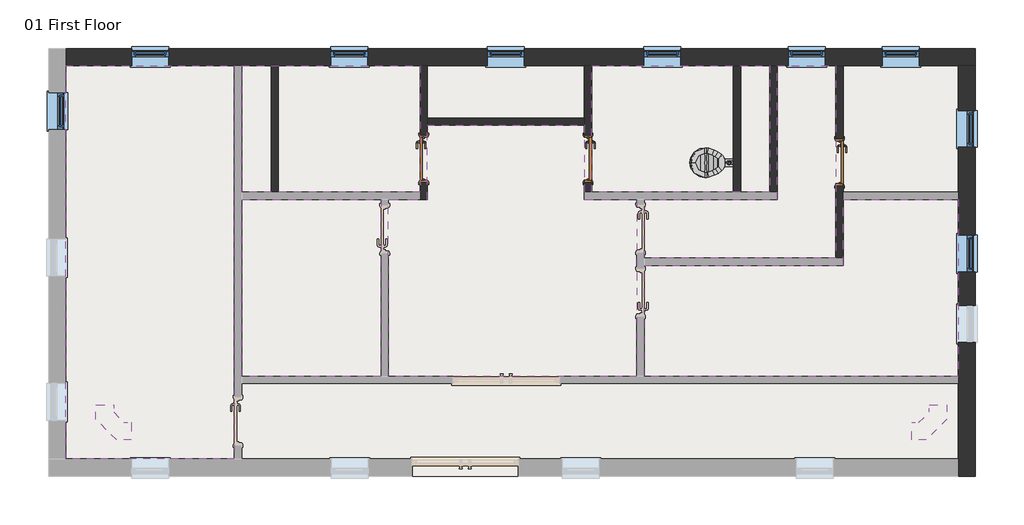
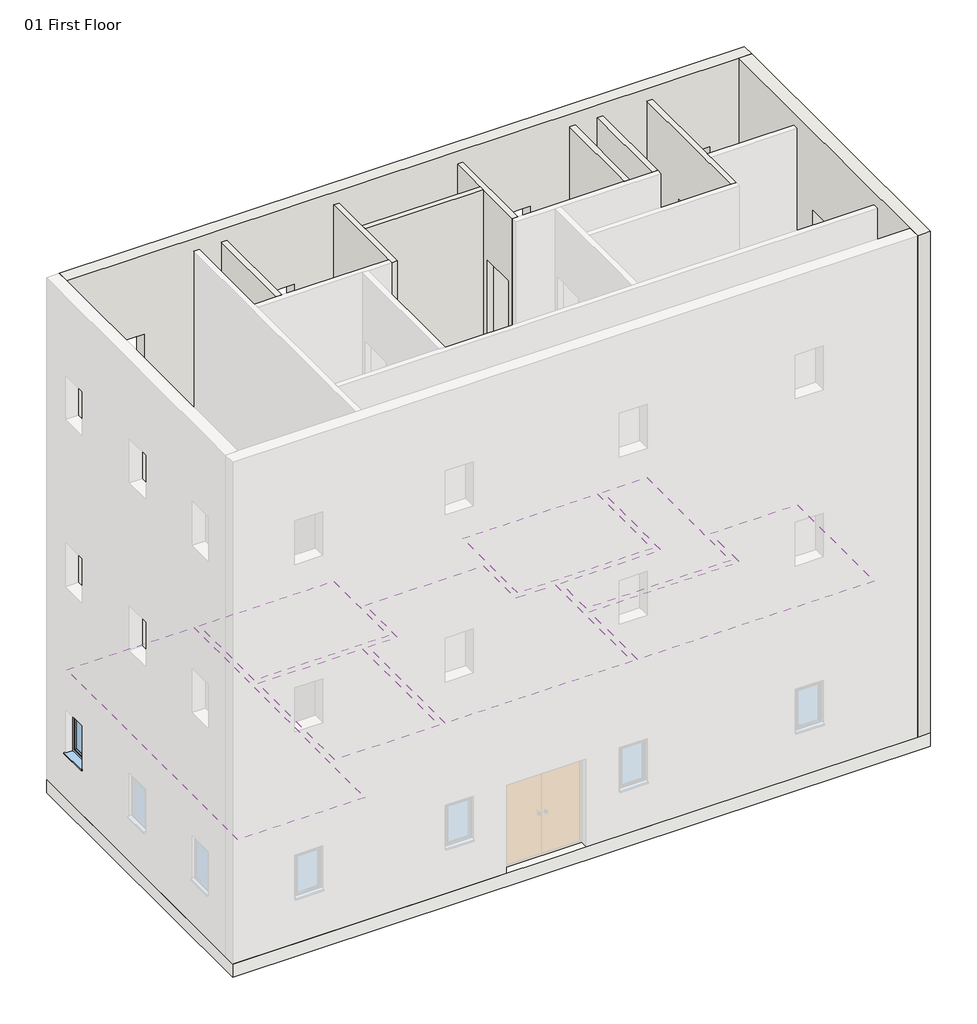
# One storey, part 2 of 2: 9 walls, 9 windows, 7 coverings, 3 doors, 2 cable carrier fittings, 1 flow terminal, 1 slab.
"""IFC4 building model written with IfcOpenShell, lengths in millimetres."""

from ifc_helpers import new_model, si_unit, frame, origin, origin_with_axes, place, context, project, spatial, polyline, outline, extrude, faceted_brep, transform, mapped, element, save
from components import cable_tray_horizontal_bend_standard_e2de60b4, intsgl_1_810_x_2110mm_5ef26f82, intsgl_1_810_x_2110mm_60c2a13c, m_water_closet_flush_valve_wall_mounted_private_6_1_lpf_4ab4cbdd, sgl_plain_630_x_1050mm_deep_554a1539

model = new_model("IFC4")

# Units and contexts
model_context = context("Model", 3, world=origin())
ifc_project = project(units=[si_unit("LENGTHUNIT", "METRE", prefix="MILLI")], contexts=[model_context])

# Site, building, storey
site = spatial("IfcSite", under=ifc_project)
building = spatial("IfcBuilding", under=site)
storey = spatial("IfcBuildingStorey", under=building, Name="01 First Floor", Elevation=0.0)

# Cable carrier fittings
placement = place(None, origin())
cable_tray_horizontal_bend_standard_shape = cable_tray_horizontal_bend_standard_e2de60b4(model_context)
element("IfcCableCarrierFitting", 1, ObjectType="Cable Tray Horizontal Bend : Standard", at=placement, inside=storey, context=model_context, shape_type="MappedRepresentation", body=[
    mapped(cable_tray_horizontal_bend_standard_shape, transform((8556.847993, -4345.0291205, 3000.0), x_axis=(1.0, 0.0, 0.0), y_axis=(0.0, 1.0, 0.0), z_axis=(0.0, 0.0, 1.0))),
])
element("IfcCableCarrierFitting", 2, ObjectType="Cable Tray Horizontal Bend : Standard", at=placement, inside=storey, context=model_context, shape_type="MappedRepresentation", body=[
    mapped(cable_tray_horizontal_bend_standard_shape, transform((-5643.152007, -4345.0291205, 3000.0), x_axis=(0.0, -1.0, 0.0), y_axis=(1.0, 0.0, 0.0), z_axis=(0.0, 0.0, 1.0))),
])

# Coverings
element("IfcCovering", 3, ObjectType="600 x 600mm grid 2", at=placement, inside=storey, context=model_context, shape_type="SweptSolid", body=[
    extrude(outline(polyline([(-3433.0198612, 1889.6075821), (-3433.0198612, -4820.3924179), (-6308.0198612, -4820.3924179), (-6308.0198612, 1889.6075821), (-3433.0198612, 1889.6075821)])), frame((0.0, 0.0, 2700.0), z_axis=(0.0, 0.0, 1.0), x_axis=(1.0, 0.0, 0.0)), (0.0, 0.0, 1.0), 52.0),
])
element("IfcCovering", 4, ObjectType="600 x 600mm grid 2", at=placement, inside=storey, context=model_context, shape_type="SweptSolid", body=[
    extrude(outline(polyline([(-3308.0198612, 1889.6075821), (-270.5198612, 1889.6075821), (-270.5198612, -265.3924179), (-3308.0198612, -265.3924179), (-3308.0198612, 1889.6075821)])), frame((0.0, 0.0, 2700.0), z_axis=(0.0, 0.0, 1.0), x_axis=(1.0, 0.0, 0.0)), (0.0, 0.0, 1.0), 52.0),
])
element("IfcCovering", 5, ObjectType="600 x 600mm grid 2", at=placement, inside=storey, context=model_context, shape_type="SweptSolid", body=[
    extrude(outline(polyline([(-3308.0198612, -390.3924179), (-933.0198612, -390.3924179), (-933.0198612, -3407.8924179), (-3308.0198612, -3407.8924179), (-3308.0198612, -390.3924179)])), frame((0.0, 0.0, 2700.0), z_axis=(0.0, 0.0, 1.0), x_axis=(1.0, 0.0, 0.0)), (0.0, 0.0, 1.0), 52.0),
])
element("IfcCovering", 6, ObjectType="600 x 600mm grid 2", at=placement, inside=storey, context=model_context, shape_type="SweptSolid", body=[
    extrude(outline(polyline([(-808.0198612, -390.3924179), (-145.5198612, -390.3924179), (-145.5198612, 872.1075821), (2529.4801388, 872.1075821), (2529.4801388, -390.3924179), (3426.9801388, -390.3924179), (3426.9801388, -3407.8924179), (-808.0198612, -3407.8924179), (-808.0198612, -390.3924179)])), frame((0.0, 0.0, 2700.0), z_axis=(0.0, 0.0, 1.0), x_axis=(1.0, 0.0, 0.0)), (0.0, 0.0, 1.0), 52.0),
])
element("IfcCovering", 7, ObjectType="600 x 600mm grid 2", at=placement, inside=storey, context=model_context, shape_type="SweptSolid", body=[
    extrude(outline(polyline([(2654.4801388, 1889.6075821), (5691.9801388, 1889.6075821), (5691.9801388, -265.3924179), (2654.4801388, -265.3924179), (2654.4801388, 1889.6075821)])), frame((0.0, 0.0, 2700.0), z_axis=(0.0, 0.0, 1.0), x_axis=(1.0, 0.0, 0.0)), (0.0, 0.0, 1.0), 52.0),
])
element("IfcCovering", 8, ObjectType="600 x 600mm grid 2", at=placement, inside=storey, context=model_context, shape_type="SweptSolid", body=[
    extrude(outline(polyline([(5816.9801388, 1889.6075821), (6816.9801388, 1889.6075821), (6816.9801388, -1390.3924179), (3551.9801388, -1390.3924179), (3551.9801388, -390.3924179), (5816.9801388, -390.3924179), (5816.9801388, 1889.6075821)])), frame((0.0, 0.0, 2700.0), z_axis=(0.0, 0.0, 1.0), x_axis=(1.0, 0.0, 0.0)), (0.0, 0.0, 1.0), 52.0),
])
element("IfcCovering", 9, ObjectType="600 x 600mm grid 2", at=placement, inside=storey, context=model_context, shape_type="SweptSolid", body=[
    extrude(outline(polyline([(8901.9801388, -390.3924179), (8901.9801388, -3407.8924179), (3551.9801388, -3407.8924179), (3551.9801388, -1515.3924179), (6941.9801388, -1515.3924179), (6941.9801388, -390.3924179), (8901.9801388, -390.3924179)])), frame((0.0, 0.0, 2700.0), z_axis=(0.0, 0.0, 1.0), x_axis=(1.0, 0.0, 0.0)), (0.0, 0.0, 1.0), 52.0),
])

# Doors
intsgl_1_810_x_2110mm_shape = intsgl_1_810_x_2110mm_5ef26f82(model_context)
element("IfcDoor", 10, ObjectType="IntSgl (1) : 810 x 2110mm", at=placement, inside=storey, context=model_context, shape_type="MappedRepresentation", body=[
    mapped(intsgl_1_810_x_2110mm_shape, transform((-208.0198612, 303.3575821, 0.0), x_axis=(0.0, -1.0, 0.0), y_axis=(1.0, 0.0, 0.0), z_axis=(0.0, 0.0, 1.0))),
])
intsgl_1_810_x_2110mm_2_shape = intsgl_1_810_x_2110mm_60c2a13c(model_context)
element("IfcDoor", 11, ObjectType="IntSgl (1) : 810 x 2110mm", at=placement, inside=storey, context=model_context, shape_type="MappedRepresentation", body=[
    mapped(intsgl_1_810_x_2110mm_2_shape, transform((2591.9801388, 303.3575821, 0.0), x_axis=(0.0, -1.0, 0.0), y_axis=(1.0, 0.0, 0.0), z_axis=(0.0, 0.0, 1.0))),
])
element("IfcDoor", 12, ObjectType="IntSgl (1) : 810 x 2110mm", at=placement, inside=storey, context=model_context, shape_type="MappedRepresentation", body=[
    mapped(intsgl_1_810_x_2110mm_2_shape, transform((6879.4801388, 239.6075821, 0.0), x_axis=(0.0, -1.0, 0.0), y_axis=(1.0, 0.0, 0.0), z_axis=(0.0, 0.0, 1.0))),
])

# Flow terminal
m_water_closet_flush_valve_wall_mounted_private_6_1_lpf_shape = m_water_closet_flush_valve_wall_mounted_private_6_1_lpf_4ab4cbdd(model_context)
element("IfcFlowTerminal", 13, ObjectType="M_Water Closet - Flush Valve - Wall Mounted : Private - 6.1 Lpf", at=placement, inside=storey, context=model_context, shape_type="MappedRepresentation", body=[
    mapped(m_water_closet_flush_valve_wall_mounted_private_6_1_lpf_shape, transform((5066.9801388, 234.0015903, 424.0175826), x_axis=(0.0, -1.0, 0.0), y_axis=(0.0, 0.0, 1.0), z_axis=(-1.0, 0.0, 0.0))),
])

# Slab
element("IfcSlab", 14, ObjectType="Beam and Block 225mm Susp Ground", at=placement, inside=storey, context=model_context, shape_type="SweptSolid", body=[
    extrude(outline(polyline([(9191.9801388, 2179.6075821), (9191.9801388, -5110.3924179), (-6598.0198612, -5110.3924179), (-6598.0198612, 2179.6075821), (9191.9801388, 2179.6075821)])), frame((0.0, 0.0, -320.0), z_axis=(0.0, 0.0, 1.0), x_axis=(1.0, 0.0, 0.0)), (0.0, 0.0, 1.0), 320.0),
])

# Walls
element("IfcWall", 15, ObjectType="Cav - 102 75i 100 p - Lwt", at=placement, inside=storey, context=model_context, shape_type="Brep", body=[
    faceted_brep([(9191.9801388, 2179.6075821, 0.0), (-6308.0198612, 2179.6075821, 0.0), (-6308.0198612, 2179.6075821, 12000.0), (9191.9801388, 2179.6075821, 12000.0), (-5185.5198612, 2179.6075821, 2110.0), (-5185.5198612, 2179.6075821, 1060.0), (-4555.5198612, 2179.6075821, 1060.0), (-4555.5198612, 2179.6075821, 2110.0), (-1791.7698612, 2179.6075821, 2110.0), (-1791.7698612, 2179.6075821, 1060.0), (-1161.7698612, 2179.6075821, 1060.0), (-1161.7698612, 2179.6075821, 2110.0), (876.9801388, 2179.6075821, 2110.0), (876.9801388, 2179.6075821, 1060.0), (1506.9801388, 2179.6075821, 1060.0), (1506.9801388, 2179.6075821, 2110.0), (3545.7301388, 2179.6075821, 2110.0), (3545.7301388, 2179.6075821, 1060.0), (4175.7301388, 2179.6075821, 1060.0), (4175.7301388, 2179.6075821, 2110.0), (6001.9801388, 2179.6075821, 2110.0), (6001.9801388, 2179.6075821, 1060.0), (6631.9801388, 2179.6075821, 1060.0), (6631.9801388, 2179.6075821, 2110.0), (7606.9801388, 2179.6075821, 2110.0), (7606.9801388, 2179.6075821, 1060.0), (8236.9801388, 2179.6075821, 1060.0), (8236.9801388, 2179.6075821, 2110.0), (7606.9801388, 2179.6075821, 6110.0), (7606.9801388, 2179.6075821, 5060.0), (8236.9801388, 2179.6075821, 5060.0), (8236.9801388, 2179.6075821, 6110.0), (6001.9801388, 2179.6075821, 6110.0), (6001.9801388, 2179.6075821, 5060.0), (6631.9801388, 2179.6075821, 5060.0), (6631.9801388, 2179.6075821, 6110.0), (3545.7301388, 2179.6075821, 6110.0), (3545.7301388, 2179.6075821, 5060.0), (4175.7301388, 2179.6075821, 5060.0), (4175.7301388, 2179.6075821, 6110.0), (876.9801388, 2179.6075821, 6110.0), (876.9801388, 2179.6075821, 5060.0), (1506.9801388, 2179.6075821, 5060.0), (1506.9801388, 2179.6075821, 6110.0), (-1791.7698612, 2179.6075821, 6110.0), (-1791.7698612, 2179.6075821, 5060.0), (-1161.7698612, 2179.6075821, 5060.0), (-1161.7698612, 2179.6075821, 6110.0), (-5185.5198612, 2179.6075821, 6110.0), (-5185.5198612, 2179.6075821, 5060.0), (-4555.5198612, 2179.6075821, 5060.0), (-4555.5198612, 2179.6075821, 6110.0), (7606.9801388, 2179.6075821, 10110.0), (7606.9801388, 2179.6075821, 9060.0), (8236.9801388, 2179.6075821, 9060.0), (8236.9801388, 2179.6075821, 10110.0), (6001.9801388, 2179.6075821, 10110.0), (6001.9801388, 2179.6075821, 9060.0), (6631.9801388, 2179.6075821, 9060.0), (6631.9801388, 2179.6075821, 10110.0), (3545.7301388, 2179.6075821, 10110.0), (3545.7301388, 2179.6075821, 9060.0), (4175.7301388, 2179.6075821, 9060.0), (4175.7301388, 2179.6075821, 10110.0), (876.9801388, 2179.6075821, 10110.0), (876.9801388, 2179.6075821, 9060.0), (1506.9801388, 2179.6075821, 9060.0), (1506.9801388, 2179.6075821, 10110.0), (-1791.7698612, 2179.6075821, 10110.0), (-1791.7698612, 2179.6075821, 9060.0), (-1161.7698612, 2179.6075821, 9060.0), (-1161.7698612, 2179.6075821, 10110.0), (-5185.5198612, 2179.6075821, 10110.0), (-5185.5198612, 2179.6075821, 9060.0), (-4555.5198612, 2179.6075821, 9060.0), (-4555.5198612, 2179.6075821, 10110.0), (9191.9801388, 1889.6075821, 0.0), (9191.9801388, 1889.6075821, 12000.0), (8901.9801388, 1889.6075821, 12000.0), (-6308.0198612, 1889.6075821, 12000.0), (-6308.0198612, 1889.6075821, 0.0), (-3433.0198612, 1889.6075821, 0.0), (-3308.0198612, 1889.6075821, 0.0), (-2808.0198612, 1889.6075821, 0.0), (-2683.0198612, 1889.6075821, 0.0), (-270.5198612, 1889.6075821, 0.0), (-145.5198612, 1889.6075821, 0.0), (2529.4801388, 1889.6075821, 0.0), (2654.4801388, 1889.6075821, 0.0), (5066.9801388, 1889.6075821, 0.0), (5191.9801388, 1889.6075821, 0.0), (5691.9801388, 1889.6075821, 0.0), (5816.9801388, 1889.6075821, 0.0), (6816.9801388, 1889.6075821, 0.0), (6941.9801388, 1889.6075821, 0.0), (8901.9801388, 1889.6075821, 0.0), (-5185.5198612, 1889.6075821, 2110.0), (-4555.5198612, 1889.6075821, 2110.0), (-4555.5198612, 1889.6075821, 1060.0), (-5185.5198612, 1889.6075821, 1060.0), (-1791.7698612, 1889.6075821, 2110.0), (-1161.7698612, 1889.6075821, 2110.0), (-1161.7698612, 1889.6075821, 1060.0), (-1791.7698612, 1889.6075821, 1060.0), (876.9801388, 1889.6075821, 2110.0), (1506.9801388, 1889.6075821, 2110.0), (1506.9801388, 1889.6075821, 1060.0), (876.9801388, 1889.6075821, 1060.0), (3545.7301388, 1889.6075821, 2110.0), (4175.7301388, 1889.6075821, 2110.0), (4175.7301388, 1889.6075821, 1060.0), (3545.7301388, 1889.6075821, 1060.0), (6001.9801388, 1889.6075821, 2110.0), (6631.9801388, 1889.6075821, 2110.0), (6631.9801388, 1889.6075821, 1060.0), (6001.9801388, 1889.6075821, 1060.0), (7606.9801388, 1889.6075821, 2110.0), (8236.9801388, 1889.6075821, 2110.0), (8236.9801388, 1889.6075821, 1060.0), (7606.9801388, 1889.6075821, 1060.0), (7606.9801388, 1889.6075821, 6110.0), (8236.9801388, 1889.6075821, 6110.0), (8236.9801388, 1889.6075821, 5060.0), (7606.9801388, 1889.6075821, 5060.0), (6001.9801388, 1889.6075821, 6110.0), (6631.9801388, 1889.6075821, 6110.0), (6631.9801388, 1889.6075821, 5060.0), (6001.9801388, 1889.6075821, 5060.0), (3545.7301388, 1889.6075821, 6110.0), (4175.7301388, 1889.6075821, 6110.0), (4175.7301388, 1889.6075821, 5060.0), (3545.7301388, 1889.6075821, 5060.0), (876.9801388, 1889.6075821, 6110.0), (1506.9801388, 1889.6075821, 6110.0), (1506.9801388, 1889.6075821, 5060.0), (876.9801388, 1889.6075821, 5060.0), (-1791.7698612, 1889.6075821, 6110.0), (-1161.7698612, 1889.6075821, 6110.0), (-1161.7698612, 1889.6075821, 5060.0), (-1791.7698612, 1889.6075821, 5060.0), (-5185.5198612, 1889.6075821, 6110.0), (-4555.5198612, 1889.6075821, 6110.0), (-4555.5198612, 1889.6075821, 5060.0), (-5185.5198612, 1889.6075821, 5060.0), (7606.9801388, 1889.6075821, 10110.0), (8236.9801388, 1889.6075821, 10110.0), (8236.9801388, 1889.6075821, 9060.0), (7606.9801388, 1889.6075821, 9060.0), (6001.9801388, 1889.6075821, 10110.0), (6631.9801388, 1889.6075821, 10110.0), (6631.9801388, 1889.6075821, 9060.0), (6001.9801388, 1889.6075821, 9060.0), (3545.7301388, 1889.6075821, 10110.0), (4175.7301388, 1889.6075821, 10110.0), (4175.7301388, 1889.6075821, 9060.0), (3545.7301388, 1889.6075821, 9060.0), (876.9801388, 1889.6075821, 10110.0), (1506.9801388, 1889.6075821, 10110.0), (1506.9801388, 1889.6075821, 9060.0), (876.9801388, 1889.6075821, 9060.0), (-1791.7698612, 1889.6075821, 10110.0), (-1161.7698612, 1889.6075821, 10110.0), (-1161.7698612, 1889.6075821, 9060.0), (-1791.7698612, 1889.6075821, 9060.0), (-5185.5198612, 1889.6075821, 10110.0), (-4555.5198612, 1889.6075821, 10110.0), (-4555.5198612, 1889.6075821, 9060.0), (-5185.5198612, 1889.6075821, 9060.0)], [[[0, 1, 2, 3], [4, 5, 6, 7], [8, 9, 10, 11], [12, 13, 14, 15], [16, 17, 18, 19], [20, 21, 22, 23], [24, 25, 26, 27], [28, 29, 30, 31], [32, 33, 34, 35], [36, 37, 38, 39], [40, 41, 42, 43], [44, 45, 46, 47], [48, 49, 50, 51], [52, 53, 54, 55], [56, 57, 58, 59], [60, 61, 62, 63], [64, 65, 66, 67], [68, 69, 70, 71], [72, 73, 74, 75]], [[76, 77, 78, 79, 80, 81, 82, 83, 84, 85, 86, 87, 88, 89, 90, 91, 92, 93, 94, 95], [96, 97, 98, 99], [100, 101, 102, 103], [104, 105, 106, 107], [108, 109, 110, 111], [112, 113, 114, 115], [116, 117, 118, 119], [120, 121, 122, 123], [124, 125, 126, 127], [128, 129, 130, 131], [132, 133, 134, 135], [136, 137, 138, 139], [140, 141, 142, 143], [144, 145, 146, 147], [148, 149, 150, 151], [152, 153, 154, 155], [156, 157, 158, 159], [160, 161, 162, 163], [164, 165, 166, 167]], [[1, 0, 76, 95, 94, 93, 92, 91, 90, 89, 88, 87, 86, 85, 84, 83, 82, 81, 80]], [[3, 2, 79, 78, 77]], [[0, 3, 77, 76]], [[2, 1, 80, 79]], [[5, 4, 96, 99]], [[6, 5, 99, 98]], [[7, 6, 98, 97]], [[4, 7, 97, 96]], [[9, 8, 100, 103]], [[10, 9, 103, 102]], [[11, 10, 102, 101]], [[8, 11, 101, 100]], [[13, 12, 104, 107]], [[14, 13, 107, 106]], [[15, 14, 106, 105]], [[12, 15, 105, 104]], [[17, 16, 108, 111]], [[18, 17, 111, 110]], [[19, 18, 110, 109]], [[16, 19, 109, 108]], [[21, 20, 112, 115]], [[22, 21, 115, 114]], [[23, 22, 114, 113]], [[20, 23, 113, 112]], [[25, 24, 116, 119]], [[26, 25, 119, 118]], [[27, 26, 118, 117]], [[24, 27, 117, 116]], [[29, 28, 120, 123]], [[30, 29, 123, 122]], [[31, 30, 122, 121]], [[28, 31, 121, 120]], [[33, 32, 124, 127]], [[34, 33, 127, 126]], [[35, 34, 126, 125]], [[32, 35, 125, 124]], [[37, 36, 128, 131]], [[38, 37, 131, 130]], [[39, 38, 130, 129]], [[36, 39, 129, 128]], [[41, 40, 132, 135]], [[42, 41, 135, 134]], [[43, 42, 134, 133]], [[40, 43, 133, 132]], [[45, 44, 136, 139]], [[46, 45, 139, 138]], [[47, 46, 138, 137]], [[44, 47, 137, 136]], [[49, 48, 140, 143]], [[50, 49, 143, 142]], [[51, 50, 142, 141]], [[48, 51, 141, 140]], [[53, 52, 144, 147]], [[54, 53, 147, 146]], [[55, 54, 146, 145]], [[52, 55, 145, 144]], [[57, 56, 148, 151]], [[58, 57, 151, 150]], [[59, 58, 150, 149]], [[56, 59, 149, 148]], [[61, 60, 152, 155]], [[62, 61, 155, 154]], [[63, 62, 154, 153]], [[60, 63, 153, 152]], [[65, 64, 156, 159]], [[66, 65, 159, 158]], [[67, 66, 158, 157]], [[64, 67, 157, 156]], [[69, 68, 160, 163]], [[70, 69, 163, 162]], [[71, 70, 162, 161]], [[68, 71, 161, 160]], [[73, 72, 164, 167]], [[74, 73, 167, 166]], [[75, 74, 166, 165]], [[72, 75, 165, 164]]]),
])
element("IfcWall", 16, ObjectType="Cav - 102 75i 100 p - Lwt", at=placement, inside=storey, context=model_context, shape_type="Brep", body=[
    faceted_brep([(9191.9801388, -5110.3924179, 0.0), (9191.9801388, 1889.6075821, 0.0), (9191.9801388, 1889.6075821, 12000.0), (9191.9801388, -5110.3924179, 12000.0), (9191.9801388, 1127.1075821, 2110.0), (9191.9801388, 1127.1075821, 1060.0), (9191.9801388, 497.1075821, 1060.0), (9191.9801388, 497.1075821, 2110.0), (9191.9801388, -999.9924179, 2110.0), (9191.9801388, -999.9924179, 1060.0), (9191.9801388, -1629.9924179, 1060.0), (9191.9801388, -1629.9924179, 2110.0), (9191.9801388, -2203.9424179, 2110.0), (9191.9801388, -2203.9424179, 1060.0), (9191.9801388, -2833.9424179, 1060.0), (9191.9801388, -2833.9424179, 2110.0), (9191.9801388, -2203.9424179, 6110.0), (9191.9801388, -2203.9424179, 5060.0), (9191.9801388, -2833.9424179, 5060.0), (9191.9801388, -2833.9424179, 6110.0), (9191.9801388, -999.9924179, 6110.0), (9191.9801388, -999.9924179, 5060.0), (9191.9801388, -1629.9924179, 5060.0), (9191.9801388, -1629.9924179, 6110.0), (9191.9801388, 1127.1075821, 6110.0), (9191.9801388, 1127.1075821, 5060.0), (9191.9801388, 497.1075821, 5060.0), (9191.9801388, 497.1075821, 6110.0), (9191.9801388, -2203.9424179, 10110.0), (9191.9801388, -2203.9424179, 9060.0), (9191.9801388, -2833.9424179, 9060.0), (9191.9801388, -2833.9424179, 10110.0), (9191.9801388, -999.9924179, 10110.0), (9191.9801388, -999.9924179, 9060.0), (9191.9801388, -1629.9924179, 9060.0), (9191.9801388, -1629.9924179, 10110.0), (9191.9801388, 1127.1075821, 10110.0), (9191.9801388, 1127.1075821, 9060.0), (9191.9801388, 497.1075821, 9060.0), (9191.9801388, 497.1075821, 10110.0), (8901.9801388, -5110.3924179, 0.0), (8901.9801388, -5110.3924179, 12000.0), (8901.9801388, -4820.3924179, 12000.0), (8901.9801388, 1889.6075821, 12000.0), (8901.9801388, 1889.6075821, 0.0), (8901.9801388, -265.3924179, 0.0), (8901.9801388, -390.3924179, 0.0), (8901.9801388, -3407.8924179, 0.0), (8901.9801388, -3532.8924179, 0.0), (8901.9801388, -4820.3924179, 0.0), (8901.9801388, 1127.1075821, 2110.0), (8901.9801388, 497.1075821, 2110.0), (8901.9801388, 497.1075821, 1060.0), (8901.9801388, 1127.1075821, 1060.0), (8901.9801388, -999.9924179, 2110.0), (8901.9801388, -1629.9924179, 2110.0), (8901.9801388, -1629.9924179, 1060.0), (8901.9801388, -999.9924179, 1060.0), (8901.9801388, -2203.9424179, 2110.0), (8901.9801388, -2833.9424179, 2110.0), (8901.9801388, -2833.9424179, 1060.0), (8901.9801388, -2203.9424179, 1060.0), (8901.9801388, -2203.9424179, 6110.0), (8901.9801388, -2833.9424179, 6110.0), (8901.9801388, -2833.9424179, 5060.0), (8901.9801388, -2203.9424179, 5060.0), (8901.9801388, -999.9924179, 6110.0), (8901.9801388, -1629.9924179, 6110.0), (8901.9801388, -1629.9924179, 5060.0), (8901.9801388, -999.9924179, 5060.0), (8901.9801388, 1127.1075821, 6110.0), (8901.9801388, 497.1075821, 6110.0), (8901.9801388, 497.1075821, 5060.0), (8901.9801388, 1127.1075821, 5060.0), (8901.9801388, -2203.9424179, 10110.0), (8901.9801388, -2833.9424179, 10110.0), (8901.9801388, -2833.9424179, 9060.0), (8901.9801388, -2203.9424179, 9060.0), (8901.9801388, -999.9924179, 10110.0), (8901.9801388, -1629.9924179, 10110.0), (8901.9801388, -1629.9924179, 9060.0), (8901.9801388, -999.9924179, 9060.0), (8901.9801388, 1127.1075821, 10110.0), (8901.9801388, 497.1075821, 10110.0), (8901.9801388, 497.1075821, 9060.0), (8901.9801388, 1127.1075821, 9060.0)], [[[0, 1, 2, 3], [4, 5, 6, 7], [8, 9, 10, 11], [12, 13, 14, 15], [16, 17, 18, 19], [20, 21, 22, 23], [24, 25, 26, 27], [28, 29, 30, 31], [32, 33, 34, 35], [36, 37, 38, 39]], [[40, 41, 42, 43, 44, 45, 46, 47, 48, 49], [50, 51, 52, 53], [54, 55, 56, 57], [58, 59, 60, 61], [62, 63, 64, 65], [66, 67, 68, 69], [70, 71, 72, 73], [74, 75, 76, 77], [78, 79, 80, 81], [82, 83, 84, 85]], [[1, 0, 40, 49, 48, 47, 46, 45, 44]], [[3, 2, 43, 42, 41]], [[0, 3, 41, 40]], [[2, 1, 44, 43]], [[5, 4, 50, 53]], [[6, 5, 53, 52]], [[7, 6, 52, 51]], [[4, 7, 51, 50]], [[9, 8, 54, 57]], [[10, 9, 57, 56]], [[11, 10, 56, 55]], [[8, 11, 55, 54]], [[13, 12, 58, 61]], [[14, 13, 61, 60]], [[15, 14, 60, 59]], [[12, 15, 59, 58]], [[17, 16, 62, 65]], [[18, 17, 65, 64]], [[19, 18, 64, 63]], [[16, 19, 63, 62]], [[21, 20, 66, 69]], [[22, 21, 69, 68]], [[23, 22, 68, 67]], [[20, 23, 67, 66]], [[25, 24, 70, 73]], [[26, 25, 73, 72]], [[27, 26, 72, 71]], [[24, 27, 71, 70]], [[29, 28, 74, 77]], [[30, 29, 77, 76]], [[31, 30, 76, 75]], [[28, 31, 75, 74]], [[33, 32, 78, 81]], [[34, 33, 81, 80]], [[35, 34, 80, 79]], [[32, 35, 79, 78]], [[37, 36, 82, 85]], [[38, 37, 85, 84]], [[39, 38, 84, 83]], [[36, 39, 83, 82]]]),
])
element("IfcWall", 17, ObjectType="Partn - p 100 p - Block", at=placement, inside=storey, context=model_context, shape_type="Brep", body=[
    faceted_brep([(-270.5198612, -390.3924179, 11700.0), (-270.5198612, -265.3924179, 11700.0), (-270.5198612, 1889.6075821, 11700.0), (-270.5198612, 1889.6075821, 0.0), (-270.5198612, 708.3575821, 0.0), (-270.5198612, 708.3575821, 2110.0), (-270.5198612, -101.6424179, 2110.0), (-270.5198612, -101.6424179, 0.0), (-270.5198612, -265.3924179, 0.0), (-270.5198612, -390.3924179, 0.0), (-270.5198612, -101.6424179, 4000.0), (-270.5198612, 708.3575821, 4000.0), (-270.5198612, 708.3575821, 6110.0), (-270.5198612, -101.6424179, 6110.0), (-270.5198612, -101.6424179, 8000.0), (-270.5198612, 708.3575821, 8000.0), (-270.5198612, 708.3575821, 10110.0), (-270.5198612, -101.6424179, 10110.0), (-145.5198612, 1889.6075821, 11700.0), (-145.5198612, 997.1075821, 11700.0), (-145.5198612, 872.1075821, 11700.0), (-145.5198612, -390.3924179, 11700.0), (-145.5198612, -390.3924179, 0.0), (-145.5198612, -101.6424179, 0.0), (-145.5198612, -101.6424179, 2110.0), (-145.5198612, 708.3575821, 2110.0), (-145.5198612, 708.3575821, 0.0), (-145.5198612, 872.1075821, 0.0), (-145.5198612, 997.1075821, 0.0), (-145.5198612, 1889.6075821, 0.0), (-145.5198612, -101.6424179, 4000.0), (-145.5198612, -101.6424179, 6110.0), (-145.5198612, 708.3575821, 6110.0), (-145.5198612, 708.3575821, 4000.0), (-145.5198612, -101.6424179, 8000.0), (-145.5198612, -101.6424179, 10110.0), (-145.5198612, 708.3575821, 10110.0), (-145.5198612, 708.3575821, 8000.0)], [[[0, 1, 2, 3, 4, 5, 6, 7, 8, 9], [10, 11, 12, 13], [14, 15, 16, 17]], [[18, 19, 20, 21, 22, 23, 24, 25, 26, 27, 28, 29], [30, 31, 32, 33], [34, 35, 36, 37]], [[3, 29, 28, 27, 26, 4]], [[22, 9, 8, 7, 23]], [[2, 1, 0, 21, 20, 19, 18]], [[3, 2, 18, 29]], [[0, 9, 22, 21]], [[6, 24, 23, 7]], [[24, 6, 5, 25]], [[25, 5, 4, 26]], [[31, 30, 10, 13]], [[32, 31, 13, 12]], [[33, 32, 12, 11]], [[30, 33, 11, 10]], [[35, 34, 14, 17]], [[36, 35, 17, 16]], [[37, 36, 16, 15]], [[34, 37, 15, 14]]]),
])
element("IfcWall", 18, ObjectType="Partn - p 100 p - Block", at=placement, inside=storey, context=model_context, shape_type="SweptSolid", body=[
    extrude(outline(polyline([(2529.4801388, 872.1075821), (-145.5198612, 872.1075821), (-145.5198612, 997.1075821), (2529.4801388, 997.1075821), (2529.4801388, 872.1075821)])), origin_with_axes(), (0.0, 0.0, 1.0), 11700.0),
])
element("IfcWall", 19, ObjectType="Partn - p 100 p - Block", at=placement, inside=storey, context=model_context, shape_type="Brep", body=[
    faceted_brep([(2654.4801388, 1889.6075821, 11700.0), (2654.4801388, -265.3924179, 11700.0), (2654.4801388, -265.3924179, 0.0), (2654.4801388, -101.6424179, 0.0), (2654.4801388, -101.6424179, 2110.0), (2654.4801388, 708.3575821, 2110.0), (2654.4801388, 708.3575821, 0.0), (2654.4801388, 1889.6075821, 0.0), (2654.4801388, -101.6424179, 4000.0), (2654.4801388, -101.6424179, 6110.0), (2654.4801388, 708.3575821, 6110.0), (2654.4801388, 708.3575821, 4000.0), (2654.4801388, -101.6424179, 8000.0), (2654.4801388, -101.6424179, 10110.0), (2654.4801388, 708.3575821, 10110.0), (2654.4801388, 708.3575821, 8000.0), (2529.4801388, -265.3924179, 11700.0), (2529.4801388, 872.1075821, 11700.0), (2529.4801388, 997.1075821, 11700.0), (2529.4801388, 1889.6075821, 11700.0), (2529.4801388, 1889.6075821, 0.0), (2529.4801388, 997.1075821, 0.0), (2529.4801388, 872.1075821, 0.0), (2529.4801388, 708.3575821, 0.0), (2529.4801388, 708.3575821, 2110.0), (2529.4801388, -101.6424179, 2110.0), (2529.4801388, -101.6424179, 0.0), (2529.4801388, -265.3924179, 0.0), (2529.4801388, -101.6424179, 4000.0), (2529.4801388, 708.3575821, 4000.0), (2529.4801388, 708.3575821, 6110.0), (2529.4801388, -101.6424179, 6110.0), (2529.4801388, -101.6424179, 8000.0), (2529.4801388, 708.3575821, 8000.0), (2529.4801388, 708.3575821, 10110.0), (2529.4801388, -101.6424179, 10110.0)], [[[0, 1, 2, 3, 4, 5, 6, 7], [8, 9, 10, 11], [12, 13, 14, 15]], [[16, 17, 18, 19, 20, 21, 22, 23, 24, 25, 26, 27], [28, 29, 30, 31], [32, 33, 34, 35]], [[20, 7, 6, 23, 22, 21]], [[2, 27, 26, 3]], [[1, 0, 19, 18, 17, 16]], [[0, 7, 20, 19]], [[2, 1, 16, 27]], [[25, 4, 3, 26]], [[4, 25, 24, 5]], [[5, 24, 23, 6]], [[9, 8, 28, 31]], [[10, 9, 31, 30]], [[11, 10, 30, 29]], [[8, 11, 29, 28]], [[13, 12, 32, 35]], [[14, 13, 35, 34]], [[15, 14, 34, 33]], [[12, 15, 33, 32]]]),
])
element("IfcWall", 20, ObjectType="Partn - p 100 p - Block", at=placement, inside=storey, context=model_context, shape_type="SweptSolid", body=[
    extrude(outline(polyline([(5816.9801388, 1889.6075821), (5816.9801388, -265.3924179), (5691.9801388, -265.3924179), (5691.9801388, 1889.6075821), (5816.9801388, 1889.6075821)])), origin_with_axes(), (0.0, 0.0, 1.0), 11700.0),
])
element("IfcWall", 21, ObjectType="Partn - p 100 p - Block", at=placement, inside=storey, context=model_context, shape_type="Brep", body=[
    faceted_brep([(6816.9801388, -1390.3924179, 11700.0), (6816.9801388, 1889.6075821, 11700.0), (6816.9801388, 1889.6075821, 0.0), (6816.9801388, 644.6075821, 0.0), (6816.9801388, 644.6075821, 2110.0), (6816.9801388, -165.3924179, 2110.0), (6816.9801388, -165.3924179, 0.0), (6816.9801388, -1390.3924179, 0.0), (6816.9801388, -165.3924179, 4000.0), (6816.9801388, 644.6075821, 4000.0), (6816.9801388, 644.6075821, 6110.0), (6816.9801388, -165.3924179, 6110.0), (6816.9801388, -165.3924179, 8000.0), (6816.9801388, 644.6075821, 8000.0), (6816.9801388, 644.6075821, 10110.0), (6816.9801388, -165.3924179, 10110.0), (6941.9801388, 1889.6075821, 11700.0), (6941.9801388, -265.3924179, 11700.0), (6941.9801388, -390.3924179, 11700.0), (6941.9801388, -1390.3924179, 11700.0), (6941.9801388, -1390.3924179, 0.0), (6941.9801388, -390.3924179, 0.0), (6941.9801388, -265.3924179, 0.0), (6941.9801388, -165.3924179, 0.0), (6941.9801388, -165.3924179, 2110.0), (6941.9801388, 644.6075821, 2110.0), (6941.9801388, 644.6075821, 0.0), (6941.9801388, 1889.6075821, 0.0), (6941.9801388, -165.3924179, 4000.0), (6941.9801388, -165.3924179, 6110.0), (6941.9801388, 644.6075821, 6110.0), (6941.9801388, 644.6075821, 4000.0), (6941.9801388, -165.3924179, 8000.0), (6941.9801388, -165.3924179, 10110.0), (6941.9801388, 644.6075821, 10110.0), (6941.9801388, 644.6075821, 8000.0)], [[[0, 1, 2, 3, 4, 5, 6, 7], [8, 9, 10, 11], [12, 13, 14, 15]], [[16, 17, 18, 19, 20, 21, 22, 23, 24, 25, 26, 27], [28, 29, 30, 31], [32, 33, 34, 35]], [[2, 27, 26, 3]], [[20, 7, 6, 23, 22, 21]], [[1, 0, 19, 18, 17, 16]], [[2, 1, 16, 27]], [[0, 7, 20, 19]], [[5, 24, 23, 6]], [[24, 5, 4, 25]], [[25, 4, 3, 26]], [[29, 28, 8, 11]], [[30, 29, 11, 10]], [[31, 30, 10, 9]], [[28, 31, 9, 8]], [[33, 32, 12, 15]], [[34, 33, 15, 14]], [[35, 34, 14, 13]], [[32, 35, 13, 12]]]),
])
element("IfcWall", 22, ObjectType="Partn - p 100 p - Block", at=placement, inside=storey, context=model_context, shape_type="SweptSolid", body=[
    extrude(outline(polyline([(5066.9801388, -265.3924179), (5066.9801388, 1889.6075821), (5191.9801388, 1889.6075821), (5191.9801388, -265.3924179), (5066.9801388, -265.3924179)])), origin_with_axes(), (0.0, 0.0, 1.0), 11699.9625),
])
element("IfcWall", 23, ObjectType="Partn - p 100 p - Block", at=placement, inside=storey, context=model_context, shape_type="SweptSolid", body=[
    extrude(outline(polyline([(-2683.0198612, 1889.6075821), (-2683.0198612, -265.3924179), (-2808.0198612, -265.3924179), (-2808.0198612, 1889.6075821), (-2683.0198612, 1889.6075821)])), origin_with_axes(), (0.0, 0.0, 1.0), 11699.9625),
])

# Windows
sgl_plain_630_x_1050mm_deep_shape = sgl_plain_630_x_1050mm_deep_554a1539(model_context)
element("IfcWindow", 24, ObjectType="Sgl Plain : 630 x 1050mm Deep", at=placement, inside=storey, context=model_context, shape_type="MappedRepresentation", body=[
    mapped(sgl_plain_630_x_1050mm_deep_shape, transform((-6461.476429, 1117.4075821, 0.0), x_axis=(0.0, -1.0, 0.0), y_axis=(1.0, 0.0, 0.0), z_axis=(0.0, 0.0, 1.0))),
])
element("IfcWindow", 25, ObjectType="Sgl Plain : 630 x 1050mm Deep", at=placement, inside=storey, context=model_context, shape_type="MappedRepresentation", body=[
    mapped(sgl_plain_630_x_1050mm_deep_shape, transform((-4870.5198612, 2026.1510143, 0.0), x_axis=(1.0, 0.0, 0.0), y_axis=(0.0, 1.0, 0.0), z_axis=(0.0, 0.0, 1.0))),
])
element("IfcWindow", 26, ObjectType="Sgl Plain : 630 x 1050mm Deep", at=placement, inside=storey, context=model_context, shape_type="MappedRepresentation", body=[
    mapped(sgl_plain_630_x_1050mm_deep_shape, transform((-1476.7698612, 2026.1510143, 0.0), x_axis=(1.0, 0.0, 0.0), y_axis=(0.0, 1.0, 0.0), z_axis=(0.0, 0.0, 1.0))),
])
element("IfcWindow", 27, ObjectType="Sgl Plain : 630 x 1050mm Deep", at=placement, inside=storey, context=model_context, shape_type="MappedRepresentation", body=[
    mapped(sgl_plain_630_x_1050mm_deep_shape, transform((1191.9801388, 2026.1510143, 0.0), x_axis=(1.0, 0.0, 0.0), y_axis=(0.0, 1.0, 0.0), z_axis=(0.0, 0.0, 1.0))),
])
element("IfcWindow", 28, ObjectType="Sgl Plain : 630 x 1050mm Deep", at=placement, inside=storey, context=model_context, shape_type="MappedRepresentation", body=[
    mapped(sgl_plain_630_x_1050mm_deep_shape, transform((3860.7301388, 2026.1510143, 0.0), x_axis=(1.0, 0.0, 0.0), y_axis=(0.0, 1.0, 0.0), z_axis=(0.0, 0.0, 1.0))),
])
element("IfcWindow", 29, ObjectType="Sgl Plain : 630 x 1050mm Deep", at=placement, inside=storey, context=model_context, shape_type="MappedRepresentation", body=[
    mapped(sgl_plain_630_x_1050mm_deep_shape, transform((6316.9801388, 2026.1510143, 0.0), x_axis=(1.0, 0.0, 0.0), y_axis=(0.0, 1.0, 0.0), z_axis=(0.0, 0.0, 1.0))),
])
element("IfcWindow", 30, ObjectType="Sgl Plain : 630 x 1050mm Deep", at=placement, inside=storey, context=model_context, shape_type="MappedRepresentation", body=[
    mapped(sgl_plain_630_x_1050mm_deep_shape, transform((7921.9801388, 2026.1510143, 0.0), x_axis=(1.0, 0.0, 0.0), y_axis=(0.0, 1.0, 0.0), z_axis=(0.0, 0.0, 1.0))),
])
element("IfcWindow", 31, ObjectType="Sgl Plain : 630 x 1050mm Deep", at=placement, inside=storey, context=model_context, shape_type="MappedRepresentation", body=[
    mapped(sgl_plain_630_x_1050mm_deep_shape, transform((9038.523571, 812.1075821, 0.0), x_axis=(0.0, -1.0, 0.0), y_axis=(1.0, 0.0, 0.0), z_axis=(0.0, 0.0, 1.0))),
])
element("IfcWindow", 32, ObjectType="Sgl Plain : 630 x 1050mm Deep", at=placement, inside=storey, context=model_context, shape_type="MappedRepresentation", body=[
    mapped(sgl_plain_630_x_1050mm_deep_shape, transform((9038.523571, -1314.9924179, 0.0), x_axis=(0.0, -1.0, 0.0), y_axis=(1.0, 0.0, 0.0), z_axis=(0.0, 0.0, 1.0))),
])

save(model, "model.ifc")
